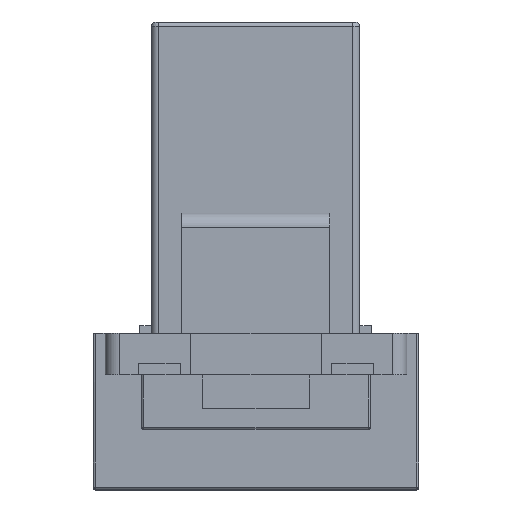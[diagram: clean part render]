
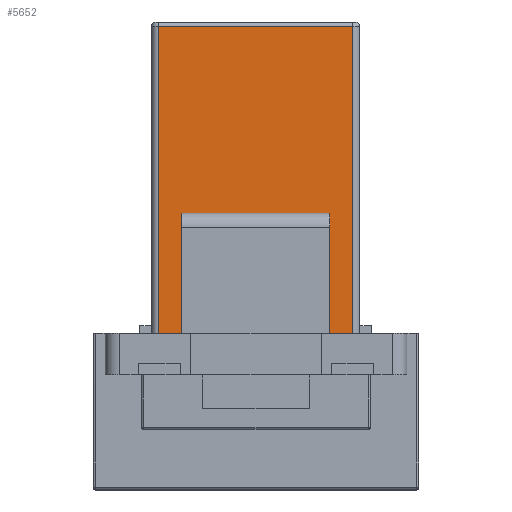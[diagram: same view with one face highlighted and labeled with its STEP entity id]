
A CAD part, top view. The second image highlights one B-rep face of the part: STEP entity #5652.
In plain terms, the highlighted planar face has unit normal (0, 0, 1) as drawn and (0, 1, 0) by its records, which use the part's own axes.
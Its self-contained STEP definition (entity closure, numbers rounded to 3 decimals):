
#5652 = ADVANCED_FACE('',(#5653,#5687),#5721,.T.);
#5653 = FACE_BOUND('',#5654,.T.);
#5654 = EDGE_LOOP('',(#5655,#5665,#5673,#5681));
#5655 = ORIENTED_EDGE('',*,*,#5656,.F.);
#5656 = EDGE_CURVE('',#5657,#5659,#5661,.T.);
#5657 = VERTEX_POINT('',#5658);
#5658 = CARTESIAN_POINT('',(6.75,8.05,0.3));
#5659 = VERTEX_POINT('',#5660);
#5660 = CARTESIAN_POINT('',(6.75,8.05,32.2));
#5661 = LINE('',#5662,#5663);
#5662 = CARTESIAN_POINT('',(6.75,8.05,0.));
#5663 = VECTOR('',#5664,1.);
#5664 = DIRECTION('',(0.,0.,1.));
#5665 = ORIENTED_EDGE('',*,*,#5666,.T.);
#5666 = EDGE_CURVE('',#5657,#5667,#5669,.T.);
#5667 = VERTEX_POINT('',#5668);
#5668 = CARTESIAN_POINT('',(-6.75,8.05,0.3));
#5669 = LINE('',#5670,#5671);
#5670 = CARTESIAN_POINT('',(6.75,8.05,0.3));
#5671 = VECTOR('',#5672,1.);
#5672 = DIRECTION('',(-1.,0.,0.));
#5673 = ORIENTED_EDGE('',*,*,#5674,.T.);
#5674 = EDGE_CURVE('',#5667,#5675,#5677,.T.);
#5675 = VERTEX_POINT('',#5676);
#5676 = CARTESIAN_POINT('',(-6.75,8.05,32.2));
#5677 = LINE('',#5678,#5679);
#5678 = CARTESIAN_POINT('',(-6.75,8.05,0.));
#5679 = VECTOR('',#5680,1.);
#5680 = DIRECTION('',(0.,0.,1.));
#5681 = ORIENTED_EDGE('',*,*,#5682,.F.);
#5682 = EDGE_CURVE('',#5659,#5675,#5683,.T.);
#5683 = LINE('',#5684,#5685);
#5684 = CARTESIAN_POINT('',(6.75,8.05,32.2));
#5685 = VECTOR('',#5686,1.);
#5686 = DIRECTION('',(-1.,0.,0.));
#5687 = FACE_BOUND('',#5688,.T.);
#5688 = EDGE_LOOP('',(#5689,#5699,#5707,#5715));
#5689 = ORIENTED_EDGE('',*,*,#5690,.T.);
#5690 = EDGE_CURVE('',#5691,#5693,#5695,.T.);
#5691 = VERTEX_POINT('',#5692);
#5692 = CARTESIAN_POINT('',(-5.15,8.05,16.9));
#5693 = VERTEX_POINT('',#5694);
#5694 = CARTESIAN_POINT('',(-5.15,8.05,13.3));
#5695 = LINE('',#5696,#5697);
#5696 = CARTESIAN_POINT('',(-5.15,8.05,26.9));
#5697 = VECTOR('',#5698,1.);
#5698 = DIRECTION('',(0.,0.,-1.));
#5699 = ORIENTED_EDGE('',*,*,#5700,.F.);
#5700 = EDGE_CURVE('',#5701,#5693,#5703,.T.);
#5701 = VERTEX_POINT('',#5702);
#5702 = CARTESIAN_POINT('',(5.15,8.05,13.3));
#5703 = LINE('',#5704,#5705);
#5704 = CARTESIAN_POINT('',(5.15,8.05,13.3));
#5705 = VECTOR('',#5706,1.);
#5706 = DIRECTION('',(-1.,-0.,-0.));
#5707 = ORIENTED_EDGE('',*,*,#5708,.F.);
#5708 = EDGE_CURVE('',#5709,#5701,#5711,.T.);
#5709 = VERTEX_POINT('',#5710);
#5710 = CARTESIAN_POINT('',(5.15,8.05,16.9));
#5711 = LINE('',#5712,#5713);
#5712 = CARTESIAN_POINT('',(5.15,8.05,26.9));
#5713 = VECTOR('',#5714,1.);
#5714 = DIRECTION('',(0.,0.,-1.));
#5715 = ORIENTED_EDGE('',*,*,#5716,.T.);
#5716 = EDGE_CURVE('',#5709,#5691,#5717,.T.);
#5717 = LINE('',#5718,#5719);
#5718 = CARTESIAN_POINT('',(5.15,8.05,16.9));
#5719 = VECTOR('',#5720,1.);
#5720 = DIRECTION('',(-1.,-0.,-0.));
#5721 = PLANE('',#5722);
#5722 = AXIS2_PLACEMENT_3D('',#5723,#5724,#5725);
#5723 = CARTESIAN_POINT('',(0.,8.05,16.25));
#5724 = DIRECTION('',(0.,1.,0.));
#5725 = DIRECTION('',(0.,-0.,1.));
